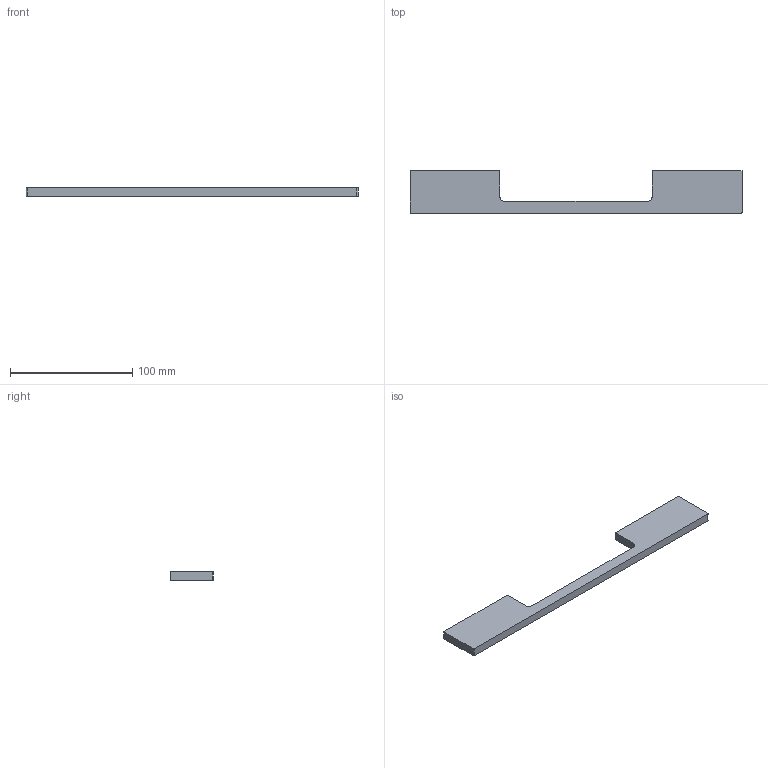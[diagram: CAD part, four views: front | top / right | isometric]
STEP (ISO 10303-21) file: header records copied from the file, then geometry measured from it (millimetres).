
FILE_DESCRIPTION( ( '' ), '1' );
FILE_NAME( 'C:/Documents and Settings/Nikhil/Desktop/Nik/Done/115014.stp', '2013-10-24T06:17:46', ( '' ), ( '' ), ' ', ' ', ' ' );
FILE_SCHEMA( ( 'automotive_design' ) );
Length unit declared in the file: millimetre
Products named in the file (1): 1
Bounding box: 272 x 35 x 7 mm (x, y, z)
Volume: 44609 mm3; surface area: 17621.9 mm2
Topology: 1 solids, 1 shells, 20 faces, 48 edges, 32 vertices
Faces by surface type: plane 12, cylinder 8
Entity records: 1172 total; most frequent: DIRECTION 106, STYLED_ITEM 101, PRESENTATION_STYLE_ASSIGNMENT 101, CARTESIAN_POINT 101, COLOUR_RGB 101, ORIENTED_EDGE 96, EDGE_CURVE 48, CURVE_STYLE 48
